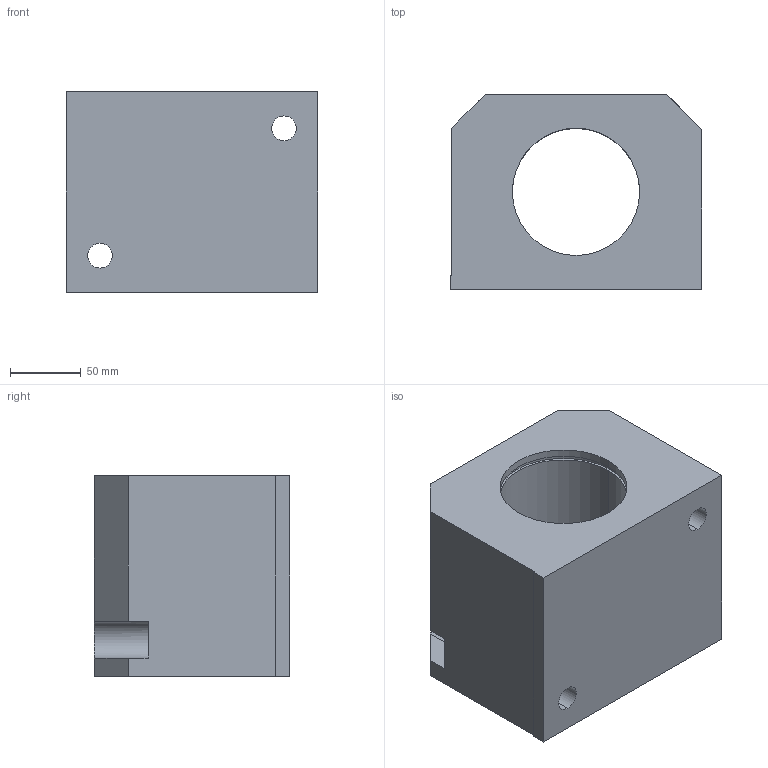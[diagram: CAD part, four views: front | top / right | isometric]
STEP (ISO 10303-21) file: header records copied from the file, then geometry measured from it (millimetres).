
FILE_DESCRIPTION (( 'STEP AP214' ), '1' );
FILE_NAME ('KG35-60.step', '2020-03-04T13:19:07', ( '' ), ( '' ), 'SwSTEP 2.0', 'SolidWorks 2019', '' );
FILE_SCHEMA (( 'AUTOMOTIVE_DESIGN' ));
Length unit declared in the file: millimetre
Products named in the file (1): KG35-60
Bounding box: 178 x 138 x 142 mm (x, y, z)
Volume: 2377727.3 mm3; surface area: 178060.7 mm2
Topology: 1 solids, 1 shells, 44 faces, 110 edges, 72 vertices
Faces by surface type: plane 22, cylinder 20, cone 2
Entity records: 1492 total; most frequent: CARTESIAN_POINT 299, DIRECTION 232, ORIENTED_EDGE 220, EDGE_CURVE 110, AXIS2_PLACEMENT_3D 83, VERTEX_POINT 72, VECTOR 66, LINE 66
